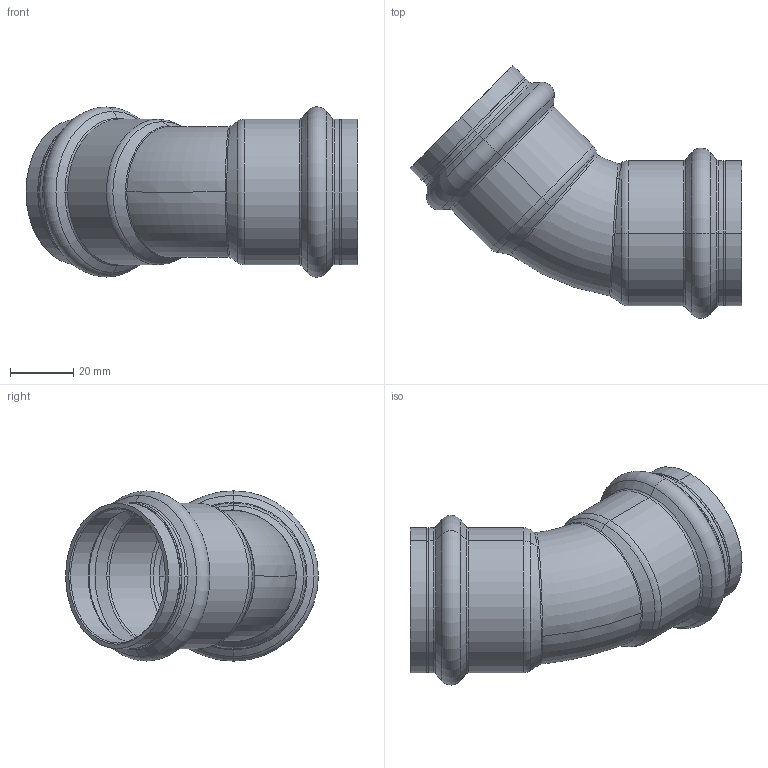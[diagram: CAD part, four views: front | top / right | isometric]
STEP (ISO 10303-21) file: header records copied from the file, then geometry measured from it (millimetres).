
FILE_DESCRIPTION (( 'STEP AP203' ), '1' );
FILE_NAME ('SP5041 Ø42.STEP', '2017-04-24T08:15:42', ( '' ), ( '' ), 'SwSTEP 2.0', 'SolidWorks 2016', '' );
FILE_SCHEMA (( 'CONFIG_CONTROL_DESIGN' ));
Length unit declared in the file: millimetre
Products named in the file (1): SP5041 ﾘ42
Bounding box: 105.03 x 79.96 x 53.86 mm (x, y, z)
Volume: 27858 mm3; surface area: 30870.8 mm2
Topology: 1 solids, 1 shells, 98 faces, 226 edges, 134 vertices
Faces by surface type: torus 36, cone 28, cylinder 24, plane 6, bspline 4
Entity records: 4183 total; most frequent: CARTESIAN_POINT 1825, DIRECTION 542, ORIENTED_EDGE 452, AXIS2_PLACEMENT_3D 245, EDGE_CURVE 226, CIRCLE 150, VERTEX_POINT 134, EDGE_LOOP 104
